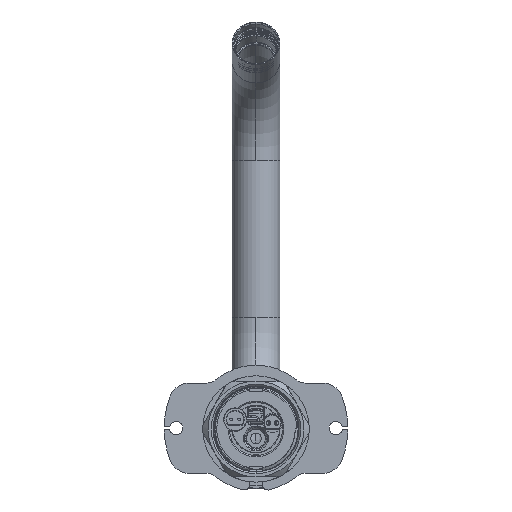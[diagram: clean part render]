
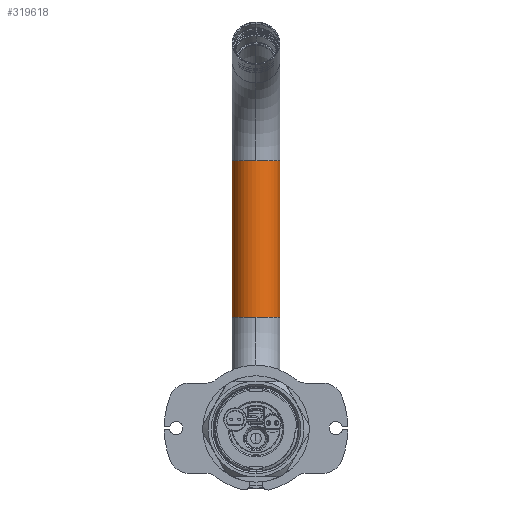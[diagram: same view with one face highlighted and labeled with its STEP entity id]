
A CAD part, front view. The second image highlights one B-rep face of the part: STEP entity #319618.
In plain terms, the highlighted cylindrical face has radius 9 mm (diameter 18 mm), a partial arc.
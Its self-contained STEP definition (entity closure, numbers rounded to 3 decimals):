
#14408 = ORIENTED_EDGE ( 'NONE', *, *, #437727, .T. ) ;
#21621 = DIRECTION ( 'NONE',  ( -1., 0., 0. ) ) ;
#29255 = AXIS2_PLACEMENT_3D ( 'NONE', #403227, #21621, #265797 ) ;
#30580 = CARTESIAN_POINT ( 'NONE',  ( 100.807, 192., -9. ) ) ;
#36999 = CARTESIAN_POINT ( 'NONE',  ( 42., 192., 0. ) ) ;
#41493 = ORIENTED_EDGE ( 'NONE', *, *, #428760, .F. ) ;
#46323 = DIRECTION ( 'NONE',  ( 1., 0., 0. ) ) ;
#46750 = CARTESIAN_POINT ( 'NONE',  ( 42., 183., 0. ) ) ;
#47046 = CIRCLE ( 'NONE', #244039, 9. ) ;
#92975 = EDGE_CURVE ( 'NONE', #368566, #176014, #276780, .T. ) ;
#102714 = ORIENTED_EDGE ( 'NONE', *, *, #295929, .F. ) ;
#112076 = CARTESIAN_POINT ( 'NONE',  ( 42., 192., 9. ) ) ;
#121197 = VECTOR ( 'NONE', #336025, 1000. ) ;
#159445 = AXIS2_PLACEMENT_3D ( 'NONE', #407960, #403444, #299607 ) ;
#170726 = CIRCLE ( 'NONE', #29255, 9. ) ;
#174351 = CARTESIAN_POINT ( 'NONE',  ( 100.807, 183., 0. ) ) ;
#175043 = AXIS2_PLACEMENT_3D ( 'NONE', #36999, #207993, #418573 ) ;
#176014 = VERTEX_POINT ( 'NONE', #190801 ) ;
#176072 = CIRCLE ( 'NONE', #175043, 9. ) ;
#181225 = VERTEX_POINT ( 'NONE', #30580 ) ;
#182923 = ORIENTED_EDGE ( 'NONE', *, *, #92975, .T. ) ;
#186207 = CARTESIAN_POINT ( 'NONE',  ( 42., 192., 9. ) ) ;
#190801 = CARTESIAN_POINT ( 'NONE',  ( 100.807, 192., 9. ) ) ;
#207993 = DIRECTION ( 'NONE',  ( -1., 0., 0. ) ) ;
#217329 = VERTEX_POINT ( 'NONE', #261322 ) ;
#244039 = AXIS2_PLACEMENT_3D ( 'NONE', #391026, #322316, #426110 ) ;
#261322 = CARTESIAN_POINT ( 'NONE',  ( 42., 192., -9. ) ) ;
#265797 = DIRECTION ( 'NONE',  ( 0., -1., 0. ) ) ;
#269369 = DIRECTION ( 'NONE',  ( 0., 0., -1. ) ) ;
#271674 = VECTOR ( 'NONE', #46323, 1000. ) ;
#276780 = CIRCLE ( 'NONE', #159445, 9. ) ;
#288099 = EDGE_CURVE ( 'NONE', #348133, #417923, #176072, .T. ) ;
#295929 = EDGE_CURVE ( 'NONE', #217329, #348133, #170726, .T. ) ;
#296813 = EDGE_CURVE ( 'NONE', #217329, #181225, #306888, .T. ) ;
#296919 = DIRECTION ( 'NONE',  ( 1., 0., 0. ) ) ;
#299607 = DIRECTION ( 'NONE',  ( 0., -1., 0. ) ) ;
#305565 = ORIENTED_EDGE ( 'NONE', *, *, #296813, .T. ) ;
#306888 = LINE ( 'NONE', #337527, #121197 ) ;
#315493 = LINE ( 'NONE', #112076, #271674 ) ;
#319595 = EDGE_LOOP ( 'NONE', ( #41493, #364077, #102714, #305565, #14408, #182923 ) ) ;
#319618 = ADVANCED_FACE ( 'NONE', ( #447068 ), #414282, .T. ) ;
#322316 = DIRECTION ( 'NONE',  ( -1., 0., 0. ) ) ;
#329066 = CARTESIAN_POINT ( 'NONE',  ( 42., 192., 0. ) ) ;
#336025 = DIRECTION ( 'NONE',  ( 1., 0., 0. ) ) ;
#337527 = CARTESIAN_POINT ( 'NONE',  ( 42., 192., -9. ) ) ;
#348133 = VERTEX_POINT ( 'NONE', #46750 ) ;
#364077 = ORIENTED_EDGE ( 'NONE', *, *, #288099, .F. ) ;
#368566 = VERTEX_POINT ( 'NONE', #174351 ) ;
#391026 = CARTESIAN_POINT ( 'NONE',  ( 100.807, 192., 0. ) ) ;
#403227 = CARTESIAN_POINT ( 'NONE',  ( 42., 192., 0. ) ) ;
#403444 = DIRECTION ( 'NONE',  ( -1., 0., 0. ) ) ;
#407960 = CARTESIAN_POINT ( 'NONE',  ( 100.807, 192., 0. ) ) ;
#414282 = CYLINDRICAL_SURFACE ( 'NONE', #442570, 9. ) ;
#417923 = VERTEX_POINT ( 'NONE', #186207 ) ;
#418573 = DIRECTION ( 'NONE',  ( 0., -1., 0. ) ) ;
#426110 = DIRECTION ( 'NONE',  ( 0., -1., 0. ) ) ;
#428760 = EDGE_CURVE ( 'NONE', #417923, #176014, #315493, .T. ) ;
#437727 = EDGE_CURVE ( 'NONE', #181225, #368566, #47046, .T. ) ;
#442570 = AXIS2_PLACEMENT_3D ( 'NONE', #329066, #296919, #269369 ) ;
#447068 = FACE_OUTER_BOUND ( 'NONE', #319595, .T. ) ;
